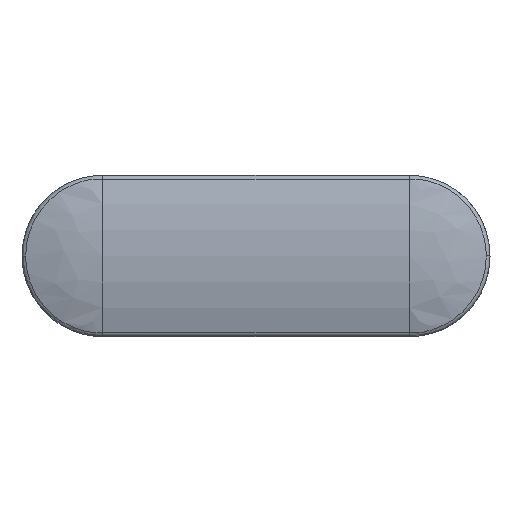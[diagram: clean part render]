
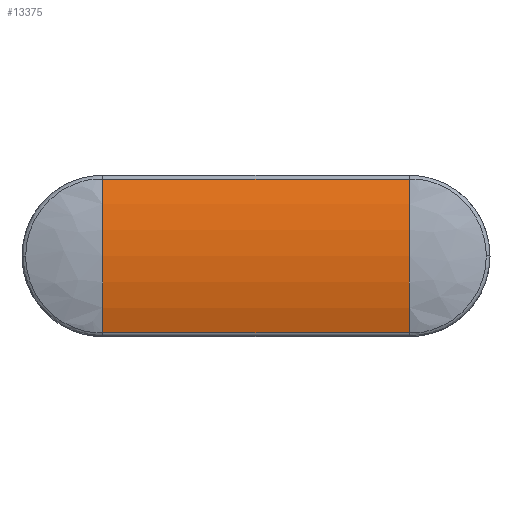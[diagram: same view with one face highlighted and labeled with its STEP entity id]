
A CAD part, top view. The second image highlights one B-rep face of the part: STEP entity #13375.
In plain terms, the highlighted cylindrical face has radius 9.553 mm (diameter 19.106 mm), a partial arc.
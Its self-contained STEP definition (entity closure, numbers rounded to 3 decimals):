
#2101=CARTESIAN_POINT('',(-5.8,2.911,3.546));
#2103=CARTESIAN_POINT('',(-5.8,0.,-5.553));
#2104=DIRECTION('',(1.,0.,0.));
#2105=DIRECTION('',(0.,0.305,0.952));
#2106=AXIS2_PLACEMENT_3D('',#2103,#2104,#2105);
#2108=CARTESIAN_POINT('',(-5.8,0.,-5.553));
#2109=DIRECTION('',(1.,0.,0.));
#2110=DIRECTION('',(0.,0.,1.));
#2111=AXIS2_PLACEMENT_3D('',#2108,#2109,#2110);
#2143=DIRECTION('',(1.,0.,0.));
#2144=VECTOR('',#2143,11.6);
#2145=CARTESIAN_POINT('',(-5.8,2.911,3.546));
#2146=LINE('',#2145,#2144);
#2147=DIRECTION('',(-1.,0.,0.));
#2148=VECTOR('',#2147,11.6);
#2149=CARTESIAN_POINT('',(5.8,-2.911,3.546));
#2150=LINE('',#2149,#2148);
#2351=CARTESIAN_POINT('',(5.8,0.,-5.553));
#2352=DIRECTION('',(-1.,0.,0.));
#2353=DIRECTION('',(0.,-0.305,0.952));
#2354=AXIS2_PLACEMENT_3D('',#2351,#2352,#2353);
#2356=CARTESIAN_POINT('',(5.8,0.,-5.553));
#2357=DIRECTION('',(-1.,0.,0.));
#2358=DIRECTION('',(0.,0.,1.));
#2359=AXIS2_PLACEMENT_3D('',#2356,#2357,#2358);
#10085=VERTEX_POINT('',#2101);
#10086=CARTESIAN_POINT('',(-5.8,0.,
4.));
#10087=VERTEX_POINT('',#10086);
#10088=CARTESIAN_POINT('',(-5.8,-2.911,
3.546));
#10089=VERTEX_POINT('',#10088);
#10090=CARTESIAN_POINT('',(5.8,2.911,3.546));
#10091=VERTEX_POINT('',#10090);
#10092=CARTESIAN_POINT('',(5.8,0.,
4.));
#10093=VERTEX_POINT('',#10092);
#10094=CARTESIAN_POINT('',(5.8,-2.911,
3.546));
#10095=VERTEX_POINT('',#10094);
#13358=CARTESIAN_POINT('',(-6.032,0.,-5.553));
#13359=DIRECTION('',(1.,0.,0.));
#13360=DIRECTION('',(0.,0.319,0.948));
#13361=AXIS2_PLACEMENT_3D('',#13358,#13359,#13360);
#13362=CYLINDRICAL_SURFACE('',#13361,9.553);
#13364=ORIENTED_EDGE('',*,*,#13363,.T.);
#13366=ORIENTED_EDGE('',*,*,#13365,.F.);
#13368=ORIENTED_EDGE('',*,*,#13367,.F.);
#13370=ORIENTED_EDGE('',*,*,#13369,.T.);
#13371=ORIENTED_EDGE('',*,*,#13351,.F.);
#13372=ORIENTED_EDGE('',*,*,#13349,.F.);
#13373=EDGE_LOOP('',(#13364,#13366,#13368,#13370,#13371,#13372));
#13374=FACE_OUTER_BOUND('',#13373,.F.);
#13375=ADVANCED_FACE('',(#13374),#13362,.T.);
#2107=CIRCLE('',#2106,9.553);
#2112=CIRCLE('',#2111,9.553);
#2355=CIRCLE('',#2354,9.553);
#2360=CIRCLE('',#2359,9.553);
#13349=EDGE_CURVE('',#10085,#10087,#2107,.T.);
#13351=EDGE_CURVE('',#10087,#10089,#2112,.T.);
#13363=EDGE_CURVE('',#10085,#10091,#2146,.T.);
#13365=EDGE_CURVE('',#10093,#10091,#2360,.T.);
#13367=EDGE_CURVE('',#10095,#10093,#2355,.T.);
#13369=EDGE_CURVE('',#10095,#10089,#2150,.T.);
